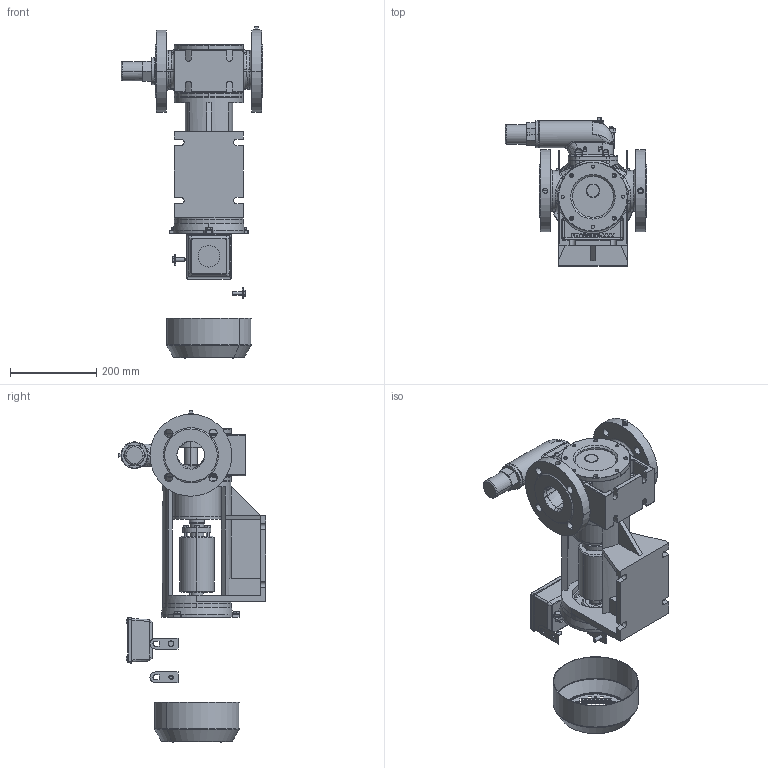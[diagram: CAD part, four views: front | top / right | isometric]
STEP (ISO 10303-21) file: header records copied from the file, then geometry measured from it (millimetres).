
FILE_DESCRIPTION((''),'2;1');
FILE_NAME('GP66EF-GE1H1G11_ASM','2020-07-01T',('heqi'),(''),'PRO/ENGINEER BY PARAMETRIC TECHNOLOGY CORPORATION, 2017170','PRO/ENGINEER BY PARAMETRIC TECHNOLOGY CORPORATION, 2017170','');
FILE_SCHEMA(('CONFIG_CONTROL_DESIGN'));
Products named in the file (27): 1066-001BB342; 1066-002BA342; 1066-003DB342; 1066-021CC017; 0012-080ZA030; 1066-020BA050; 0050B160A; 0016-038EB225; 0025-027BA035; 700304; 700305; 704000; 0051-032AA; 1048-036AA; 0049-062AA; 1023-046BA; 0037-046AA; BYPASS-51-66_ASM; LYFT_S_VRA; FL_S_DNS_4A_100L_B14A; UTTAGSL_S_EDA_4A_80-100; FL_S_DKTK_S_EPA_4A_100L; M6S_M8X25; BODY_4A_100L; ASM0001_ASM; 4A_100L-B14A_BEVI_ASM; GP66EF-GE1H1G11_ASM
Assembly tree (31 placements, depth 4):
  GP66EF-GE1H1G11_ASM
    1066-001BB342
    1066-002BA342
    1066-003DB342
    1066-021CC017
    0012-080ZA030
    1066-020BA050
    0050B160A
    0016-038EB225
    0025-027BA035
    700304  x2
    700305  x2
    704000
    BYPASS-51-66_ASM
      0051-032AA
      704000
      1048-036AA
      0049-062AA
      1023-046BA
      0037-046AA
    4A_100L-B14A_BEVI_ASM
      ASM0001_ASM
        LYFT_S_VRA  x2
        FL_S_DNS_4A_100L_B14A
        UTTAGSL_S_EDA_4A_80-100
        FL_S_DKTK_S_EPA_4A_100L
        M6S_M8X25  x2
        BODY_4A_100L
Bounding box: 328.49 x 343.07 x 770.04 mm (x, y, z)
Volume: 7753043.8 mm3; surface area: 1326115 mm2
Topology: 27 solids, 28 shells, 3105 faces, 8126 edges, 5121 vertices
Faces by surface type: plane 1506, bspline 552, cylinder 487, cone 283, extrusion 165, torus 89, sphere 22, revolution 1
Entity records: 133940 total; most frequent: CARTESIAN_POINT 63304, ORIENTED_EDGE 15612, DIRECTION 12530, EDGE_CURVE 7806, VERTEX_POINT 4947, VECTOR 4909, LINE 4744, AXIS2_PLACEMENT_3D 3810
